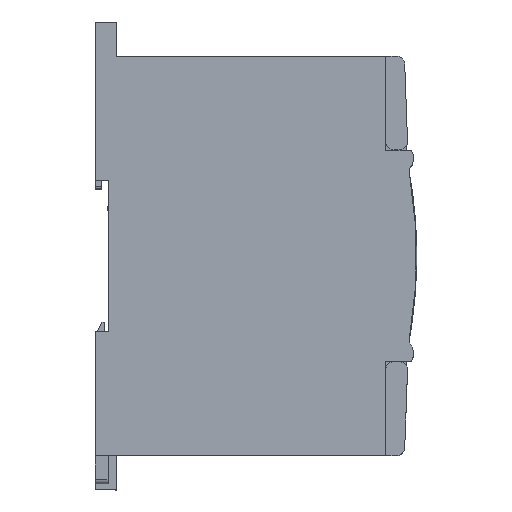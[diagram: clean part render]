
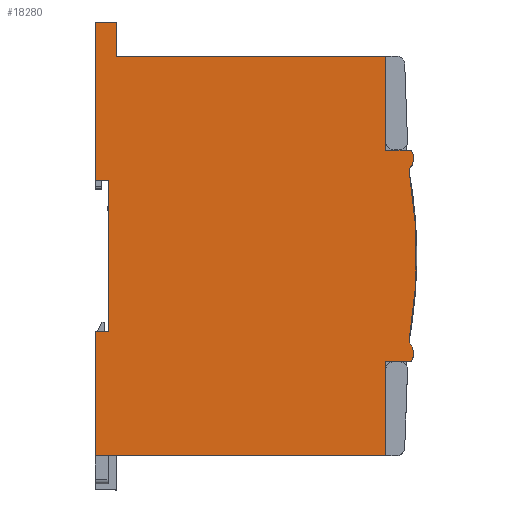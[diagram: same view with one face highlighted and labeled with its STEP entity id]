
A CAD part, top view. The second image highlights one B-rep face of the part: STEP entity #18280.
In plain terms, the highlighted planar face has unit normal (0, 0, 1) as drawn and (-1, 0, 0) by its records, which use the part's own axes.
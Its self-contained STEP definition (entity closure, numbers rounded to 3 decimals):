
#4524 = CARTESIAN_POINT ( 'NONE',  ( 0., 29.25, -72.4 ) ) ;
#4805 = CARTESIAN_POINT ( 'NONE',  ( 0., 94., -70.6 ) ) ;
#4837 = CARTESIAN_POINT ( 'NONE',  ( 0., 0., -7.268 ) ) ;
#4847 = DIRECTION ( 'NONE',  ( 0., 0., -1. ) ) ;
#4848 = VECTOR ( 'NONE', #4847, 1000. ) ;
#4849 = CARTESIAN_POINT ( 'NONE',  ( 0., 0., -75.6 ) ) ;
#4850 = LINE ( 'NONE', #4849, #4848 ) ;
#4854 = CARTESIAN_POINT ( 'NONE',  ( 0., 0., -75.6 ) ) ;
#4904 = DIRECTION ( 'NONE',  ( 0., 0., 1. ) ) ;
#4905 = VECTOR ( 'NONE', #4904, 1000. ) ;
#4906 = CARTESIAN_POINT ( 'NONE',  ( 0., 94., -7.268 ) ) ;
#4907 = LINE ( 'NONE', #4906, #4905 ) ;
#4918 = CARTESIAN_POINT ( 'NONE',  ( 0., 94., -7.268 ) ) ;
#5063 = DIRECTION ( 'NONE',  ( 0., 1., 0. ) ) ;
#5064 = VECTOR ( 'NONE', #5063, 1000. ) ;
#5065 = CARTESIAN_POINT ( 'NONE',  ( 0., 0., -72.4 ) ) ;
#5066 = LINE ( 'NONE', #5065, #5064 ) ;
#5067 = CARTESIAN_POINT ( 'NONE',  ( 0., 64.75, -72.4 ) ) ;
#5137 = CARTESIAN_POINT ( 'NONE',  ( 0., 64.75, -75.6 ) ) ;
#5197 = CARTESIAN_POINT ( 'NONE',  ( 0., 64.75, -72.4 ) ) ;
#5226 = DIRECTION ( 'NONE',  ( 0., 0., -1. ) ) ;
#5227 = VECTOR ( 'NONE', #5226, 1000. ) ;
#5232 = LINE ( 'NONE', #5197, #5227 ) ;
#5258 = DIRECTION ( 'NONE',  ( 0., -1., 0. ) ) ;
#5259 = VECTOR ( 'NONE', #5258, 1000. ) ;
#5260 = CARTESIAN_POINT ( 'NONE',  ( 0., 94., -7.268 ) ) ;
#5261 = CARTESIAN_POINT ( 'NONE',  ( 0., 71.8, -7.268 ) ) ;
#5262 = LINE ( 'NONE', #5260, #5259 ) ;
#5292 = DIRECTION ( 'NONE',  ( 0., 1., 0. ) ) ;
#5293 = VECTOR ( 'NONE', #5292, 1000. ) ;
#5294 = CARTESIAN_POINT ( 'NONE',  ( 0., 0., -7.268 ) ) ;
#5295 = LINE ( 'NONE', #5294, #5293 ) ;
#5342 = DIRECTION ( 'NONE',  ( 0., 0., -1. ) ) ;
#5343 = VECTOR ( 'NONE', #5342, 1000. ) ;
#5345 = CARTESIAN_POINT ( 'NONE',  ( 0., 22.2, -1.268 ) ) ;
#5346 = LINE ( 'NONE', #5345, #5343 ) ;
#5353 = CARTESIAN_POINT ( 'NONE',  ( 0., 22.2, -7.268 ) ) ;
#5424 = CIRCLE ( 'NONE', #5476, 3.579 ) ;
#5425 = CARTESIAN_POINT ( 'NONE',  ( 0., 22.2, -1.268 ) ) ;
#5462 = DIRECTION ( 'NONE',  ( 0., 0., -1. ) ) ;
#5463 = DIRECTION ( 'NONE',  ( 1., 0., 0. ) ) ;
#5475 = CARTESIAN_POINT ( 'NONE',  ( 0., 24.065, -4.323 ) ) ;
#5476 = AXIS2_PLACEMENT_3D ( 'NONE', #5475, #5463, #5462 ) ;
#5486 = CARTESIAN_POINT ( 'NONE',  ( 0., 71.8, -1.268 ) ) ;
#5490 = DIRECTION ( 'NONE',  ( 0., 0., 1. ) ) ;
#5491 = VECTOR ( 'NONE', #5490, 1000. ) ;
#5492 = LINE ( 'NONE', #5504, #5491 ) ;
#5504 = CARTESIAN_POINT ( 'NONE',  ( 0., 71.8, -75.6 ) ) ;
#5528 = CARTESIAN_POINT ( 'NONE',  ( 0., 26.494, -1.694 ) ) ;
#5695 = CARTESIAN_POINT ( 'NONE',  ( 0., 27.268, -1.741 ) ) ;
#7032 = DIRECTION ( 'NONE',  ( 0., 0., -1. ) ) ;
#7033 = DIRECTION ( 'NONE',  ( 1., 0., 0. ) ) ;
#7034 = CARTESIAN_POINT ( 'NONE',  ( 0., 69.935, -4.323 ) ) ;
#7035 = AXIS2_PLACEMENT_3D ( 'NONE', #7034, #7033, #7032 ) ;
#7041 = CIRCLE ( 'NONE', #7035, 3.579 ) ;
#7064 = CARTESIAN_POINT ( 'NONE',  ( 0., 47., -112.688 ) ) ;
#7076 = CARTESIAN_POINT ( 'NONE',  ( 0., 102., -75.6 ) ) ;
#7083 = CARTESIAN_POINT ( 'NONE',  ( 0., 67.494, -1.705 ) ) ;
#7084 = CARTESIAN_POINT ( 'NONE',  ( 0., 102., -70.6 ) ) ;
#7086 = DIRECTION ( 'NONE',  ( 0., 1., 0. ) ) ;
#7087 = VECTOR ( 'NONE', #7086, 1000. ) ;
#7088 = LINE ( 'NONE', #7096, #7087 ) ;
#7089 = LINE ( 'NONE', #7143, #7142 ) ;
#7090 = DIRECTION ( 'NONE',  ( 0., 0., 1. ) ) ;
#7091 = VECTOR ( 'NONE', #7090, 1000. ) ;
#7092 = CARTESIAN_POINT ( 'NONE',  ( 0., 29.25, -75.6 ) ) ;
#7093 = LINE ( 'NONE', #7092, #7091 ) ;
#7096 = CARTESIAN_POINT ( 'NONE',  ( 0., 29.25, -75.6 ) ) ;
#7097 = CARTESIAN_POINT ( 'NONE',  ( 0., 29.25, -75.6 ) ) ;
#7105 = DIRECTION ( 'NONE',  ( 0., 0., -1. ) ) ;
#7106 = DIRECTION ( 'NONE',  ( 1., 0., 0. ) ) ;
#7107 = AXIS2_PLACEMENT_3D ( 'NONE', #7064, #7106, #7105 ) ;
#7108 = CIRCLE ( 'NONE', #7107, 112.688 ) ;
#7110 = CARTESIAN_POINT ( 'NONE',  ( 0., 66.487, -1.698 ) ) ;
#7120 = DIRECTION ( 'NONE',  ( 0., 1., 0. ) ) ;
#7121 = VECTOR ( 'NONE', #7120, 1000. ) ;
#7122 = LINE ( 'NONE', #7125, #7121 ) ;
#7125 = CARTESIAN_POINT ( 'NONE',  ( 0., 22.2, -75.6 ) ) ;
#7141 = DIRECTION ( 'NONE',  ( 0., 1., -0.008 ) ) ;
#7142 = VECTOR ( 'NONE', #7141, 1000. ) ;
#7143 = CARTESIAN_POINT ( 'NONE',  ( 0., 69.955, -1.724 ) ) ;
#7148 = LINE ( 'NONE', #7190, #7189 ) ;
#7154 = CARTESIAN_POINT ( 'NONE',  ( 0., 69.935, -4.323 ) ) ;
#7178 = DIRECTION ( 'NONE',  ( 0., 0., -1. ) ) ;
#7179 = DIRECTION ( 'NONE',  ( 1., 0., 0. ) ) ;
#7182 = VECTOR ( 'NONE', #7194, 1000. ) ;
#7183 = LINE ( 'NONE', #7186, #7182 ) ;
#7184 = AXIS2_PLACEMENT_3D ( 'NONE', #7154, #7179, #7178 ) ;
#7186 = CARTESIAN_POINT ( 'NONE',  ( 0., 94., -70.6 ) ) ;
#7187 = PLANE ( 'NONE',  #7184 ) ;
#7188 = DIRECTION ( 'NONE',  ( 0., 0.998, -0.06 ) ) ;
#7189 = VECTOR ( 'NONE', #7188, 1000. ) ;
#7190 = CARTESIAN_POINT ( 'NONE',  ( 0., 69.935, -4.325 ) ) ;
#7194 = DIRECTION ( 'NONE',  ( 0., 1., 0. ) ) ;
#7199 = FACE_OUTER_BOUND ( 'NONE', #18187, .T. ) ;
#7205 = DIRECTION ( 'NONE',  ( 0., 0., -1. ) ) ;
#7206 = VECTOR ( 'NONE', #7205, 1000. ) ;
#7207 = CARTESIAN_POINT ( 'NONE',  ( 0., 102., -70.6 ) ) ;
#7208 = LINE ( 'NONE', #7207, #7206 ) ;
#16496 = VERTEX_POINT ( 'NONE', #4524 ) ;
#16626 = VERTEX_POINT ( 'NONE', #4805 ) ;
#16640 = EDGE_CURVE ( 'NONE', #16652, #16660, #4850, .T. ) ;
#16652 = VERTEX_POINT ( 'NONE', #4837 ) ;
#16660 = VERTEX_POINT ( 'NONE', #4854 ) ;
#16713 = VERTEX_POINT ( 'NONE', #4918 ) ;
#16718 = EDGE_CURVE ( 'NONE', #16626, #16713, #4907, .T. ) ;
#16848 = EDGE_CURVE ( 'NONE', #16496, #16858, #5066, .T. ) ;
#16858 = VERTEX_POINT ( 'NONE', #5067 ) ;
#16907 = VERTEX_POINT ( 'NONE', #5137 ) ;
#17006 = EDGE_CURVE ( 'NONE', #16858, #16907, #5232, .T. ) ;
#17023 = EDGE_CURVE ( 'NONE', #16713, #17030, #5262, .T. ) ;
#17030 = VERTEX_POINT ( 'NONE', #5261 ) ;
#17049 = EDGE_CURVE ( 'NONE', #16652, #17071, #5295, .T. ) ;
#17071 = VERTEX_POINT ( 'NONE', #5353 ) ;
#17078 = EDGE_CURVE ( 'NONE', #17205, #17071, #5346, .T. ) ;
#17205 = VERTEX_POINT ( 'NONE', #5425 ) ;
#17211 = EDGE_CURVE ( 'NONE', #17264, #17205, #5424, .T. ) ;
#17227 = EDGE_CURVE ( 'NONE', #17030, #17254, #5492, .T. ) ;
#17254 = VERTEX_POINT ( 'NONE', #5486 ) ;
#17264 = VERTEX_POINT ( 'NONE', #5528 ) ;
#17383 = VERTEX_POINT ( 'NONE', #5695 ) ;
#18104 = EDGE_CURVE ( 'NONE', #17254, #18109, #7041, .T. ) ;
#18109 = VERTEX_POINT ( 'NONE', #7083 ) ;
#18116 = VERTEX_POINT ( 'NONE', #7076 ) ;
#18127 = EDGE_CURVE ( 'NONE', #18129, #17383, #7108, .T. ) ;
#18129 = VERTEX_POINT ( 'NONE', #7110 ) ;
#18141 = EDGE_CURVE ( 'NONE', #18166, #16496, #7093, .T. ) ;
#18142 = ORIENTED_EDGE ( 'NONE', *, *, #16640, .F. ) ;
#18144 = EDGE_CURVE ( 'NONE', #16660, #18166, #7088, .T. ) ;
#18146 = ORIENTED_EDGE ( 'NONE', *, *, #18261, .T. ) ;
#18148 = EDGE_CURVE ( 'NONE', #18129, #18109, #7089, .T. ) ;
#18159 = ORIENTED_EDGE ( 'NONE', *, *, #18141, .F. ) ;
#18161 = ORIENTED_EDGE ( 'NONE', *, *, #17006, .F. ) ;
#18166 = VERTEX_POINT ( 'NONE', #7097 ) ;
#18168 = VERTEX_POINT ( 'NONE', #7084 ) ;
#18170 = ORIENTED_EDGE ( 'NONE', *, *, #17078, .F. ) ;
#18174 = ORIENTED_EDGE ( 'NONE', *, *, #18188, .F. ) ;
#18187 = EDGE_LOOP ( 'NONE', ( #18174, #18161, #18282, #18159, #18283, #18142, #18258, #18170, #18262, #18146, #18259, #18266, #18264, #18272, #18278, #18245, #18263, #18275 ) ) ;
#18188 = EDGE_CURVE ( 'NONE', #16907, #18116, #7122, .T. ) ;
#18245 = ORIENTED_EDGE ( 'NONE', *, *, #16718, .F. ) ;
#18247 = EDGE_CURVE ( 'NONE', #18168, #18116, #7208, .T. ) ;
#18258 = ORIENTED_EDGE ( 'NONE', *, *, #17049, .T. ) ;
#18259 = ORIENTED_EDGE ( 'NONE', *, *, #18127, .F. ) ;
#18261 = EDGE_CURVE ( 'NONE', #17264, #17383, #7148, .T. ) ;
#18262 = ORIENTED_EDGE ( 'NONE', *, *, #17211, .F. ) ;
#18263 = ORIENTED_EDGE ( 'NONE', *, *, #18269, .T. ) ;
#18264 = ORIENTED_EDGE ( 'NONE', *, *, #18104, .F. ) ;
#18266 = ORIENTED_EDGE ( 'NONE', *, *, #18148, .T. ) ;
#18269 = EDGE_CURVE ( 'NONE', #16626, #18168, #7183, .T. ) ;
#18272 = ORIENTED_EDGE ( 'NONE', *, *, #17227, .F. ) ;
#18275 = ORIENTED_EDGE ( 'NONE', *, *, #18247, .T. ) ;
#18278 = ORIENTED_EDGE ( 'NONE', *, *, #17023, .F. ) ;
#18280 = ADVANCED_FACE ( 'NONE', ( #7199 ), #7187, .F. ) ;
#18282 = ORIENTED_EDGE ( 'NONE', *, *, #16848, .F. ) ;
#18283 = ORIENTED_EDGE ( 'NONE', *, *, #18144, .F. ) ;
